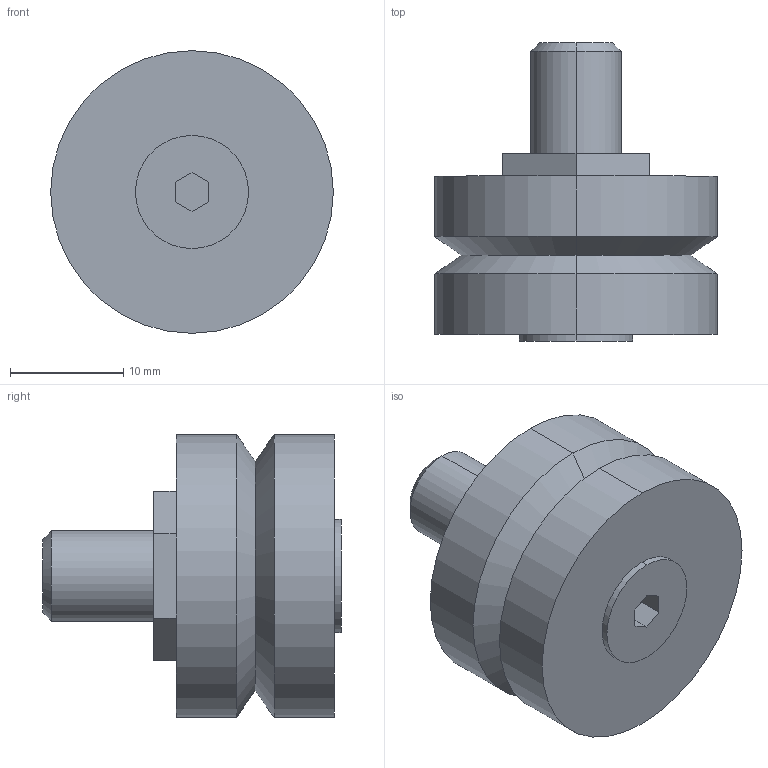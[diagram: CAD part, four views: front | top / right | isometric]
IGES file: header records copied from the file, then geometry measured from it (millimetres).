
Start section: 3D InterOp IGES (Version 21 0 1), Spatial Corp. Copyright (c) 1999-2007.
Global section: file name: RBHJ25C.igs; native system: Spatial Corp.; preprocessor: 3D InterOp GENERIC/IGES 3.0; author: Noname; organization: Noname; date: 20220627.165108; units: millimetre
Bounding box: 25 x 26.4 x 25 mm (x, y, z)
Surface area: 2616.5 mm2 (no closed solid volume)
Topology: 0 solids, 0 shells, 32 faces, 140 edges, 140 vertices
Faces by surface type: extrusion 18, revolution 14
